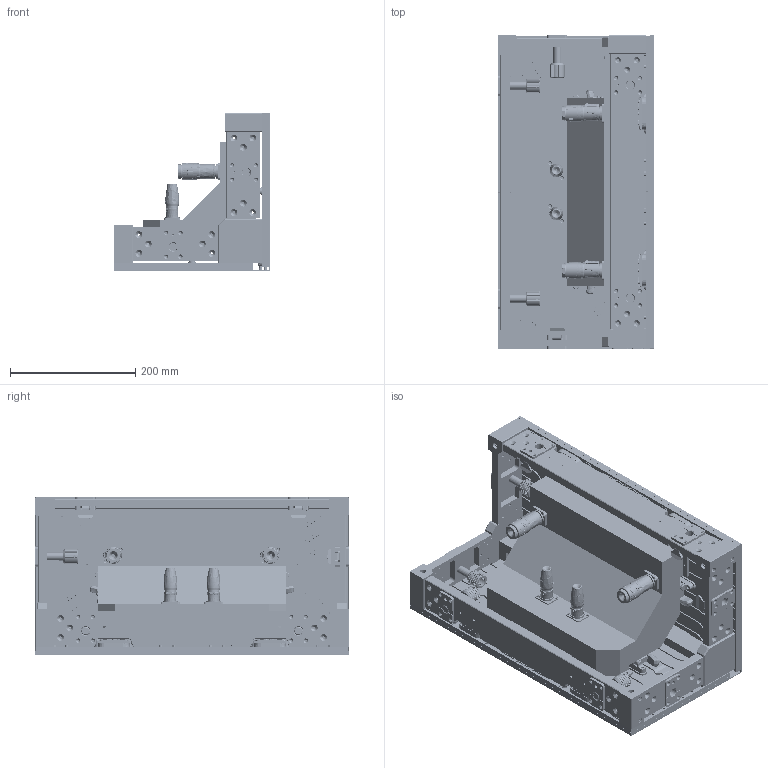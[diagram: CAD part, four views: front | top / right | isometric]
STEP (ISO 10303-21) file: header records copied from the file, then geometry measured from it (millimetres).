
FILE_DESCRIPTION((''),'2;1');
FILE_NAME('250X500-NEW-ASSEMBLY-OK-0808_ASM','2024-12-16T15:43:51',('Administrator'),('FoxCAVITY'),'CREO PARAMETRIC BY PTC INC, 2022014','CREO PARAMETRIC BY PTC INC, 2022014','');
FILE_SCHEMA(('AUTOMOTIVE_DESIGN { 1 0 10303 214 1 1 1 1 }'));
Products named in the file (66): SLV_3_2_31_1_13; XLV_3_2_31_1_13; ZSJIAO_3_2_29_1_9; ZXJIAO_3_2_29_1_9; KAPIAN_3_2_29_1_9; SUOKOU_ASM_3_2_ASM_30_1_9; SUOGAI__3_2_29_1_9; ZHISHIDENG_ASM_3_2_ASM_30_1_9; BOX_ASM_3_2_ASM_31_ASM_1_ASM_9_ASM; X3-O-HOUSING_3_2_28_1_10; TISHOUZUO_3_2_28_1_9; M5TLM_3_2_28_1_9; THZS_3_2_28_1_9; IM-TISHOU_3_2_28_1_9; TISHOUZHOU_3_3_2_28_1_9; TISHOU_ASM_3_2_ASM_28_ASM_1_ASM_ASM; 1_3_2_28_1_9; PCB_I_3_2_28_1_9; YLV_3_2_32_1_12; 250X500_NEW_2_ASM_30_ASM_1_ASM__ASM; SLV_3_32_1_13; XLV_3_32_1_13; YSJIAO_3_29_1_9; YXJIAO_3_29_1_9; ZLV_3_30_1_10; KAPIAN_3_29_1_9; SUOKOU_ASM_3_ASM_29_1_9; SUOGAI__3_29_1_9; BOX_ASM_3_ASM_32_ASM_1_ASM_10_ASM; TISHOUZUO_3_29_1_9; M5TLM_3_29_1_9; THZS_3_29_1_9; IM-TISHOU_3_29_1_9; TISHOUZHOU_3_3_29_1_9; TISHOU_ASM_3_ASM_29_ASM_1_ASM_9_ASM; 1_3_29_1_9; PCB_I_3_30_1_10; X3-O-HOUSING_3_10; 250X500_NEW-1_ASM_32_ASM_1_ASM__ASM; LIANJIEKUAI-1_32_1_14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
Assembly tree (107 placements, depth 5):
  250X500-NEW-ASSEMBLY-OK-0808_ASM
    250X500-NEW-ASSEMBLY-OK_ASM_11_ASM
      250X500_NEW_2_ASM_30_ASM_1_ASM__ASM
        BOX_ASM_3_2_ASM_31_ASM_1_ASM_9_ASM
          SLV_3_2_31_1_13
          XLV_3_2_31_1_13
          ZSJIAO_3_2_29_1_9
          ZXJIAO_3_2_29_1_9
          KAPIAN_3_2_29_1_9
          SUOKOU_ASM_3_2_ASM_30_1_9  x4
          SUOGAI__3_2_29_1_9
          ZHISHIDENG_ASM_3_2_ASM_30_1_9
        X3-O-HOUSING_3_2_28_1_10  x2
        TISHOU_ASM_3_2_ASM_28_ASM_1_ASM_ASM  x2
          TISHOUZUO_3_2_28_1_9
          M5TLM_3_2_28_1_9
          THZS_3_2_28_1_9
          IM-TISHOU_3_2_28_1_9
          TISHOUZHOU_3_3_2_28_1_9
        1_3_2_28_1_9  x4
        PCB_I_3_2_28_1_9  x2
        YLV_3_2_32_1_12
      250X500_NEW-1_ASM_32_ASM_1_ASM__ASM
        BOX_ASM_3_ASM_32_ASM_1_ASM_10_ASM
          SLV_3_32_1_13
          XLV_3_32_1_13
          YSJIAO_3_29_1_9
          YXJIAO_3_29_1_9
          ZLV_3_30_1_10
          KAPIAN_3_29_1_9  x3
          SUOKOU_ASM_3_ASM_29_1_9  x4
          SUOGAI__3_29_1_9  x3
        TISHOU_ASM_3_ASM_29_ASM_1_ASM_9_ASM  x2
          TISHOUZUO_3_29_1_9
          M5TLM_3_29_1_9
          THZS_3_29_1_9
          IM-TISHOU_3_29_1_9
          TISHOUZHOU_3_3_29_1_9
        1_3_29_1_9  x4
        PCB_I_3_30_1_10  x2
        X3-O-HOUSING_3_10  x2
      LIANJIEKUAI-1_32_1_14
      LIANJIEKUAI-2_30_1_12
      POWER-BOX_ASM_42_ASM_1_ASM_12_ASM
        DENGLONG-PIN_12  x8
        HUB_RIGHT_44_1_10
        HUB-LEFT_16_1_10
        DIANYUANHE-NEW_2_1_16
        POWERSHURU_3_32_1_10  x2
        DATA_3_32_1_10  x2
        POWER_15_1_10
        FIX-BLOCK-1_14_1_14
        FIX-BLOCK-2_12_1_13
        ZHISHIDENG_ASM_3_ASM_32_ASM_1_A_ASM
          ZHISHIDENGP_3_30_1_9
          ZHISHIDENGPCB_3_30_1_9
          ZHISHIDENGF_3_30_1_10
          ANJIAN_3_30_1_9
        FIX-PLATE-DYH-L_4_1_12
        FIX-PLATE-DYH-R_3_1_12
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Bounding box: 249.9 x 500 x 252.3 mm (x, y, z)
Volume: 3383866.9 mm3; surface area: 2354464.2 mm2
Topology: 105 solids, 121 shells, 29405 faces, 79527 edges, 52621 vertices
Faces by surface type: plane 17524, cylinder 8065, bspline 1650, cone 1060, extrusion 556, torus 398, sphere 136, revolution 16
Entity records: 634442 total; most frequent: CARTESIAN_POINT 175786, ORIENTED_EDGE 79786, DIRECTION 74466, EDGE_CURVE 39893, PRESENTATION_STYLE_ASSIGNMENT 26924, STYLED_ITEM 26856, CURVE_STYLE 26741, VERTEX_POINT 26376
